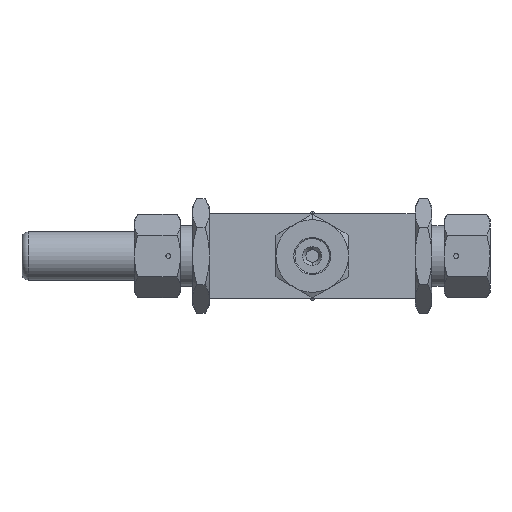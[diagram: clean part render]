
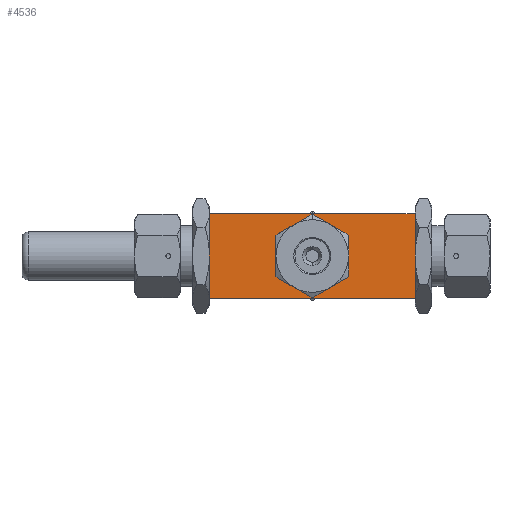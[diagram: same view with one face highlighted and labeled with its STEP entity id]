
A CAD part, front view. The second image highlights one B-rep face of the part: STEP entity #4536.
In plain terms, the highlighted planar face has unit normal (0, -1, 0).
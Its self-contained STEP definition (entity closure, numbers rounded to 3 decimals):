
#14 = EDGE_CURVE ( 'NONE', #6891, #5037, #4296, .T. ) ;
#43 = AXIS2_PLACEMENT_3D ( 'NONE', #5036, #4589, #1397 ) ;
#80 = ORIENTED_EDGE ( 'NONE', *, *, #5045, .F. ) ;
#82 = DIRECTION ( 'NONE',  ( 0., 0., -1. ) ) ;
#187 = AXIS2_PLACEMENT_3D ( 'NONE', #4618, #6769, #870 ) ;
#196 = VERTEX_POINT ( 'NONE', #1892 ) ;
#430 = VERTEX_POINT ( 'NONE', #1961 ) ;
#475 = CARTESIAN_POINT ( 'NONE',  ( 0., -32.5, 0. ) ) ;
#507 = DIRECTION ( 'NONE',  ( 1., 0., 0. ) ) ;
#592 = DIRECTION ( 'NONE',  ( 0., -1., 0. ) ) ;
#629 = CARTESIAN_POINT ( 'NONE',  ( 0., -32.5, 0. ) ) ;
#664 = DIRECTION ( 'NONE',  ( 0., 0., -1. ) ) ;
#731 = EDGE_CURVE ( 'NONE', #430, #6570, #3023, .T. ) ;
#854 = ORIENTED_EDGE ( 'NONE', *, *, #1084, .F. ) ;
#862 = AXIS2_PLACEMENT_3D ( 'NONE', #629, #5389, #82 ) ;
#870 = DIRECTION ( 'NONE',  ( 0., 0., 1. ) ) ;
#944 = VERTEX_POINT ( 'NONE', #2572 ) ;
#1016 = VERTEX_POINT ( 'NONE', #1239 ) ;
#1041 = CARTESIAN_POINT ( 'NONE',  ( -42.5, -32.5, -17.5 ) ) ;
#1051 = EDGE_CURVE ( 'NONE', #1016, #6891, #3804, .T. ) ;
#1055 = DIRECTION ( 'NONE',  ( 0., -1., 0. ) ) ;
#1078 = ORIENTED_EDGE ( 'NONE', *, *, #5601, .F. ) ;
#1084 = EDGE_CURVE ( 'NONE', #196, #5937, #3335, .T. ) ;
#1093 = AXIS2_PLACEMENT_3D ( 'NONE', #475, #5854, #4273 ) ;
#1127 = DIRECTION ( 'NONE',  ( 0., 0., -1. ) ) ;
#1239 = CARTESIAN_POINT ( 'NONE',  ( 7.5, -32.5, 12.99 ) ) ;
#1384 = DIRECTION ( 'NONE',  ( 0., 0., -1. ) ) ;
#1397 = DIRECTION ( 'NONE',  ( 0., 0., -1. ) ) ;
#1463 = PLANE ( 'NONE',  #187 ) ;
#1573 = LINE ( 'NONE', #1041, #3422 ) ;
#1591 = CARTESIAN_POINT ( 'NONE',  ( -7.5, -32.5, 12.99 ) ) ;
#1629 = CARTESIAN_POINT ( 'NONE',  ( 0., -32.5, 0. ) ) ;
#1661 = CARTESIAN_POINT ( 'NONE',  ( 7.5, -32.5, -12.99 ) ) ;
#1788 = VECTOR ( 'NONE', #664, 1000. ) ;
#1833 = DIRECTION ( 'NONE',  ( 0., -1., 0. ) ) ;
#1867 = ORIENTED_EDGE ( 'NONE', *, *, #6158, .T. ) ;
#1892 = CARTESIAN_POINT ( 'NONE',  ( 42.5, -32.5, 17.5 ) ) ;
#1911 = DIRECTION ( 'NONE',  ( 1., 0., 0. ) ) ;
#1918 = FACE_OUTER_BOUND ( 'NONE', #6342, .T. ) ;
#1919 = EDGE_CURVE ( 'NONE', #6570, #6403, #6556, .T. ) ;
#1961 = CARTESIAN_POINT ( 'NONE',  ( 0., -32.5, -15. ) ) ;
#1987 = AXIS2_PLACEMENT_3D ( 'NONE', #2957, #1833, #1384 ) ;
#2067 = CARTESIAN_POINT ( 'NONE',  ( 0., -32.5, 0. ) ) ;
#2353 = CARTESIAN_POINT ( 'NONE',  ( -42.5, -32.5, -17.5 ) ) ;
#2359 = CARTESIAN_POINT ( 'NONE',  ( 0., -32.5, 0. ) ) ;
#2374 = EDGE_CURVE ( 'NONE', #2439, #196, #6693, .T. ) ;
#2398 = ORIENTED_EDGE ( 'NONE', *, *, #731, .F. ) ;
#2439 = VERTEX_POINT ( 'NONE', #3599 ) ;
#2572 = CARTESIAN_POINT ( 'NONE',  ( -7.5, -32.5, -12.99 ) ) ;
#2703 = ORIENTED_EDGE ( 'NONE', *, *, #2374, .F. ) ;
#2734 = DIRECTION ( 'NONE',  ( 0., 0., -1. ) ) ;
#2771 = VECTOR ( 'NONE', #1911, 1000. ) ;
#2826 = CARTESIAN_POINT ( 'NONE',  ( 42.5, -32.5, -17.5 ) ) ;
#2885 = CIRCLE ( 'NONE', #862, 15. ) ;
#2957 = CARTESIAN_POINT ( 'NONE',  ( 0., -32.5, 0. ) ) ;
#2969 = ORIENTED_EDGE ( 'NONE', *, *, #3651, .F. ) ;
#3023 = CIRCLE ( 'NONE', #4691, 15. ) ;
#3066 = ORIENTED_EDGE ( 'NONE', *, *, #1051, .F. ) ;
#3100 = CARTESIAN_POINT ( 'NONE',  ( 15., -32.5, 0. ) ) ;
#3335 = LINE ( 'NONE', #5457, #1788 ) ;
#3422 = VECTOR ( 'NONE', #507, 1000. ) ;
#3560 = VECTOR ( 'NONE', #4857, 1000. ) ;
#3599 = CARTESIAN_POINT ( 'NONE',  ( -42.5, -32.5, 17.5 ) ) ;
#3651 = EDGE_CURVE ( 'NONE', #5037, #944, #4762, .T. ) ;
#3763 = DIRECTION ( 'NONE',  ( 0., -1., 0. ) ) ;
#3804 = CIRCLE ( 'NONE', #4480, 15. ) ;
#4273 = DIRECTION ( 'NONE',  ( 0., 0., -1. ) ) ;
#4296 = CIRCLE ( 'NONE', #43, 15. ) ;
#4329 = CARTESIAN_POINT ( 'NONE',  ( -15., -32.5, 0. ) ) ;
#4385 = VERTEX_POINT ( 'NONE', #2353 ) ;
#4480 = AXIS2_PLACEMENT_3D ( 'NONE', #2359, #592, #2734 ) ;
#4536 = ADVANCED_FACE ( 'NONE', ( #1918, #6736 ), #1463, .F. ) ;
#4547 = CIRCLE ( 'NONE', #1093, 15. ) ;
#4589 = DIRECTION ( 'NONE',  ( 0., -1., 0. ) ) ;
#4618 = CARTESIAN_POINT ( 'NONE',  ( -42.5, -32.5, 17.5 ) ) ;
#4691 = AXIS2_PLACEMENT_3D ( 'NONE', #1629, #3763, #5885 ) ;
#4762 = CIRCLE ( 'NONE', #6532, 15. ) ;
#4857 = DIRECTION ( 'NONE',  ( 0., 0., -1. ) ) ;
#5036 = CARTESIAN_POINT ( 'NONE',  ( 0., -32.5, 0. ) ) ;
#5037 = VERTEX_POINT ( 'NONE', #4329 ) ;
#5045 = EDGE_CURVE ( 'NONE', #6403, #1016, #4547, .T. ) ;
#5143 = EDGE_CURVE ( 'NONE', #4385, #5937, #1573, .T. ) ;
#5389 = DIRECTION ( 'NONE',  ( 0., -1., 0. ) ) ;
#5403 = LINE ( 'NONE', #6386, #3560 ) ;
#5451 = ORIENTED_EDGE ( 'NONE', *, *, #1919, .F. ) ;
#5457 = CARTESIAN_POINT ( 'NONE',  ( 42.5, -32.5, 17.5 ) ) ;
#5601 = EDGE_CURVE ( 'NONE', #944, #430, #2885, .T. ) ;
#5725 = ORIENTED_EDGE ( 'NONE', *, *, #14, .F. ) ;
#5854 = DIRECTION ( 'NONE',  ( 0., -1., 0. ) ) ;
#5885 = DIRECTION ( 'NONE',  ( 0., 0., -1. ) ) ;
#5937 = VERTEX_POINT ( 'NONE', #2826 ) ;
#6158 = EDGE_CURVE ( 'NONE', #2439, #4385, #5403, .T. ) ;
#6208 = CARTESIAN_POINT ( 'NONE',  ( -42.5, -32.5, 17.5 ) ) ;
#6342 = EDGE_LOOP ( 'NONE', ( #6669, #854, #2703, #1867 ) ) ;
#6386 = CARTESIAN_POINT ( 'NONE',  ( -42.5, -32.5, 17.5 ) ) ;
#6403 = VERTEX_POINT ( 'NONE', #3100 ) ;
#6532 = AXIS2_PLACEMENT_3D ( 'NONE', #2067, #1055, #1127 ) ;
#6556 = CIRCLE ( 'NONE', #1987, 15. ) ;
#6570 = VERTEX_POINT ( 'NONE', #1661 ) ;
#6669 = ORIENTED_EDGE ( 'NONE', *, *, #5143, .T. ) ;
#6693 = LINE ( 'NONE', #6208, #2771 ) ;
#6736 = FACE_BOUND ( 'NONE', #6849, .T. ) ;
#6769 = DIRECTION ( 'NONE',  ( 0., 1., 0. ) ) ;
#6849 = EDGE_LOOP ( 'NONE', ( #3066, #80, #5451, #2398, #1078, #2969, #5725 ) ) ;
#6891 = VERTEX_POINT ( 'NONE', #1591 ) ;
